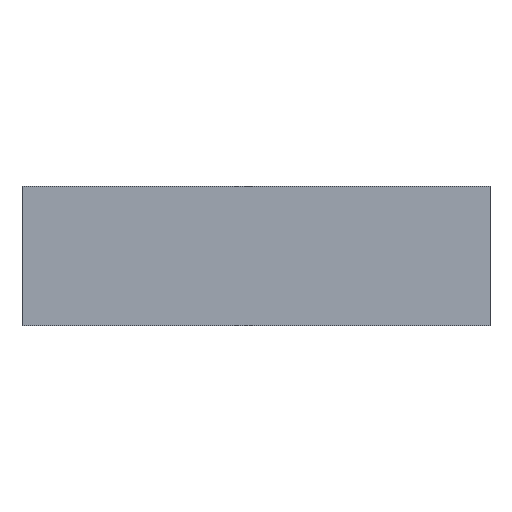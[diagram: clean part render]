
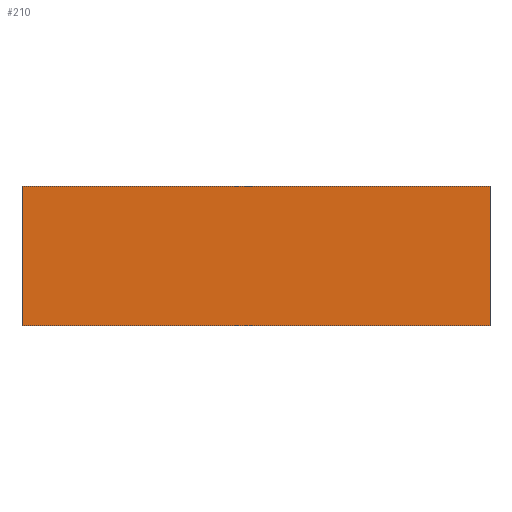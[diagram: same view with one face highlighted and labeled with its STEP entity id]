
A CAD part, front view. The second image highlights one B-rep face of the part: STEP entity #210.
In plain terms, the highlighted planar face has unit normal (0, -1, 0).
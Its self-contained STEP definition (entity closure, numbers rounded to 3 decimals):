
#20 = VECTOR ( 'NONE', #617, 1000. ) ;
#21 = LINE ( 'NONE', #651, #20 ) ;
#32 = VECTOR ( 'NONE', #654, 1000. ) ;
#33 = LINE ( 'NONE', #653, #32 ) ;
#34 = VECTOR ( 'NONE', #652, 1000. ) ;
#35 = VECTOR ( 'NONE', #572, 1000. ) ;
#36 = LINE ( 'NONE', #643, #35 ) ;
#53 = LINE ( 'NONE', #441, #34 ) ;
#145 = FACE_OUTER_BOUND ( 'NONE', #172, .T. ) ;
#172 = EDGE_LOOP ( 'NONE', ( #317, #318, #319, #320 ) ) ;
#210 = ADVANCED_FACE ( 'NONE', ( #145 ), #533, .F. ) ;
#317 = ORIENTED_EDGE ( 'NONE', *, *, #726, .T. ) ;
#318 = ORIENTED_EDGE ( 'NONE', *, *, #735, .F. ) ;
#319 = ORIENTED_EDGE ( 'NONE', *, *, #727, .F. ) ;
#320 = ORIENTED_EDGE ( 'NONE', *, *, #728, .T. ) ;
#441 = CARTESIAN_POINT ( 'NONE',  ( -201., 0., 120. ) ) ;
#467 = CARTESIAN_POINT ( 'NONE',  ( 201., 0., 120. ) ) ;
#471 = CARTESIAN_POINT ( 'NONE',  ( -201., 0., 120. ) ) ;
#472 = CARTESIAN_POINT ( 'NONE',  ( -201., 0., 0. ) ) ;
#473 = CARTESIAN_POINT ( 'NONE',  ( 201., 0., 0. ) ) ;
#523 = DIRECTION ( 'NONE',  ( -1., 0., 0. ) ) ;
#524 = DIRECTION ( 'NONE',  ( 0., 1., 0. ) ) ;
#530 = CARTESIAN_POINT ( 'NONE',  ( -201., 0., 120. ) ) ;
#533 = PLANE ( 'NONE',  #667 ) ;
#572 = DIRECTION ( 'NONE',  ( 1., 0., 0. ) ) ;
#585 = VERTEX_POINT ( 'NONE', #473 ) ;
#586 = VERTEX_POINT ( 'NONE', #472 ) ;
#587 = VERTEX_POINT ( 'NONE', #471 ) ;
#591 = VERTEX_POINT ( 'NONE', #467 ) ;
#617 = DIRECTION ( 'NONE',  ( 0., 0., -1. ) ) ;
#643 = CARTESIAN_POINT ( 'NONE',  ( -201., 0., 0. ) ) ;
#651 = CARTESIAN_POINT ( 'NONE',  ( 201., 0., 120. ) ) ;
#652 = DIRECTION ( 'NONE',  ( 1., 0., 0. ) ) ;
#653 = CARTESIAN_POINT ( 'NONE',  ( -201., 0., 120. ) ) ;
#654 = DIRECTION ( 'NONE',  ( 0., 0., -1. ) ) ;
#667 = AXIS2_PLACEMENT_3D ( 'NONE', #530, #524, #523 ) ;
#726 = EDGE_CURVE ( 'NONE', #586, #585, #36, .T. ) ;
#727 = EDGE_CURVE ( 'NONE', #587, #591, #53, .T. ) ;
#728 = EDGE_CURVE ( 'NONE', #587, #586, #33, .T. ) ;
#735 = EDGE_CURVE ( 'NONE', #591, #585, #21, .T. ) ;
